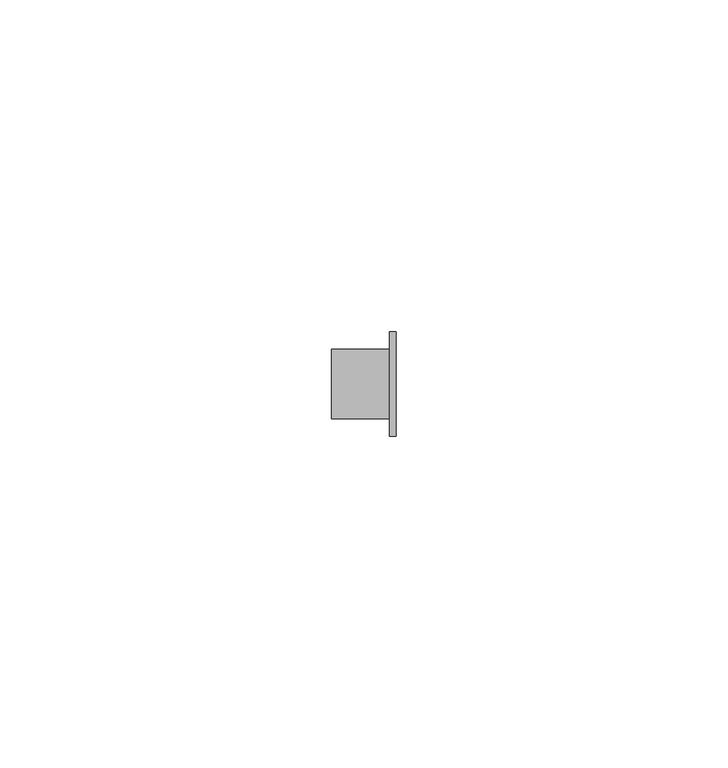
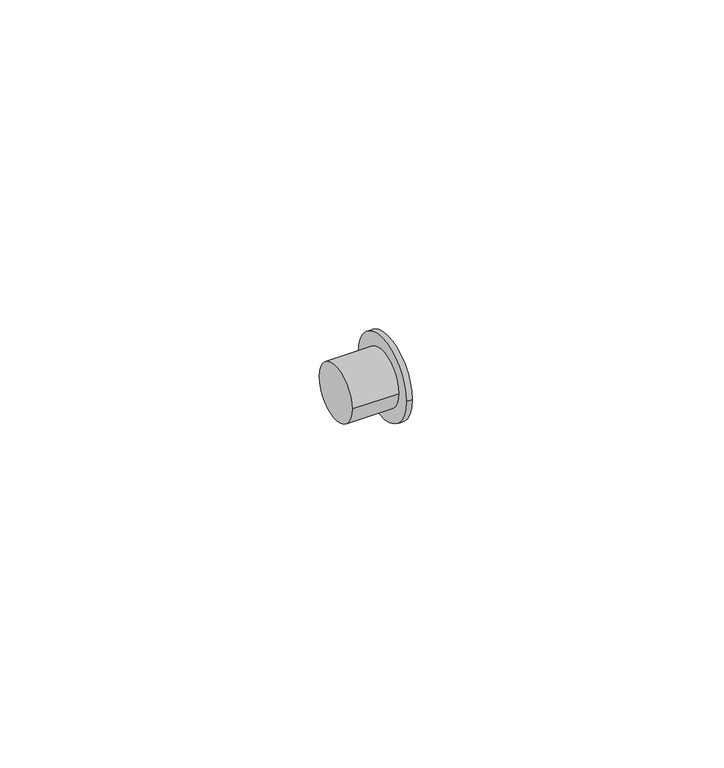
"""IFC4 building model written with IfcOpenShell, lengths in millimetres: pipe fitting geometry, Bucha de redução reta - Soldada - CU : Padrão."""

from ifc_helpers import new_model, si_unit, frame, origin, place, context, project, spatial, circle_curve, source, transform, mapped, element, save
from ifc_brep_helpers import plane_surface, cylinder_surface, advanced_brep


def pipe_fitting_a6d4f0b3(model_context):
    return source(origin(), model_context, "Body", "AdvancedBrep", [
        advanced_brep(
        [(0.0, -5.2552, 0.0), (0.0, 5.2552, 0.0), (8.6744, -5.2552, 0.0), (8.6744, 5.2552, 0.0), (9.6744, -7.835, 0.0), (9.6744, 7.835, 0.0), (8.6744, 7.835, 0.0), (8.6744, -7.835, 0.0)],
        [
            (0, 1, circle_curve(frame((0.0, 0.0, 0.0), z_axis=(-1.0, 0.0, 0.0), x_axis=(0.0, 1.0, 0.0)), 5.2552)),
            (1, 0, circle_curve(frame((0.0, 0.0, 0.0), z_axis=(-1.0, 0.0, 0.0), x_axis=(0.0, 1.0, 0.0)), 5.2552)),
            (0, 2),
            (2, 3, circle_curve(frame((8.6744, 0.0, 0.0), z_axis=(-1.0, 0.0, 0.0), x_axis=(0.0, 1.0, 0.0)), 5.2552)),
            (3, 1),
            (3, 2, circle_curve(frame((8.6744, 0.0, 0.0), z_axis=(-1.0, 0.0, 0.0), x_axis=(0.0, 1.0, 0.0)), 5.2552)),
            (4, 5, circle_curve(frame((9.6744, 0.0, 0.0), z_axis=(1.0, 0.0, 0.0), x_axis=(0.0, 1.0, 0.0)), 7.835)),
            (5, 4, circle_curve(frame((9.6744, 0.0, 0.0), z_axis=(1.0, 0.0, 0.0), x_axis=(0.0, 1.0, 0.0)), 7.835)),
            (6, 7, circle_curve(frame((8.6744, 0.0, 0.0), z_axis=(1.0, 0.0, 0.0), x_axis=(0.0, 1.0, 0.0)), 7.835)),
            (7, 4),
            (5, 6),
            (7, 6, circle_curve(frame((8.6744, 0.0, 0.0), z_axis=(1.0, 0.0, 0.0), x_axis=(0.0, 1.0, 0.0)), 7.835)),
        ],
        [
            plane_surface(frame((0.0, 0.0, 0.0), z_axis=(-1.0, 0.0, 0.0), x_axis=(0.0, 0.0, 1.0))),
            cylinder_surface(frame((0.0, 0.0, 0.0), z_axis=(-1.0, 0.0, 0.0), x_axis=(0.0, 1.0, 0.0)), 5.2552),
            plane_surface(frame((9.6744, 0.0, 0.0), z_axis=(1.0, 0.0, 0.0), x_axis=(0.0, 0.0, 1.0))),
            cylinder_surface(frame((8.6744, 0.0, 0.0), z_axis=(-1.0, 0.0, 0.0), x_axis=(0.0, 1.0, 0.0)), 7.835),
            plane_surface(frame((8.6744, 0.0, 0.0), z_axis=(-1.0, 0.0, 0.0), x_axis=(0.0, 0.0, 1.0))),
        ],
        [
            (0, [[1, 2]]),
            (1, [[-1, 3, 4, 5]]),
            (1, [[-2, -5, 6, -3]]),
            (2, [[7, 8]]),
            (3, [[9, 10, -8, 11]]),
            (3, [[12, -11, -7, -10]]),
            (4, [[-9, -12], [-4, -6]]),
        ],
    ),
    ])


if __name__ == "__main__":
    model = new_model("IFC4")
    model_context = context("Model", 3, world=origin())
    ifc_project = project(units=[si_unit("LENGTHUNIT", "METRE", prefix="MILLI")], contexts=[model_context])
    site = spatial("IfcSite", under=ifc_project)
    building = spatial("IfcBuilding", under=site)
    placement = place(None, origin())
    pipe_fitting_shape = pipe_fitting_a6d4f0b3(model_context)
    element("IfcPipeFitting", 1, ObjectType="Bucha de redução reta - Soldada - CU : Padrão", at=placement, inside=building, context=model_context, shape_type="MappedRepresentation", body=[
        mapped(pipe_fitting_shape, transform((0.0, 0.0, 0.0), x_axis=(1.0, 0.0, 0.0), y_axis=(0.0, 1.0, 0.0), z_axis=(0.0, 0.0, 1.0))),
    ])
    save(model, "model.ifc")
